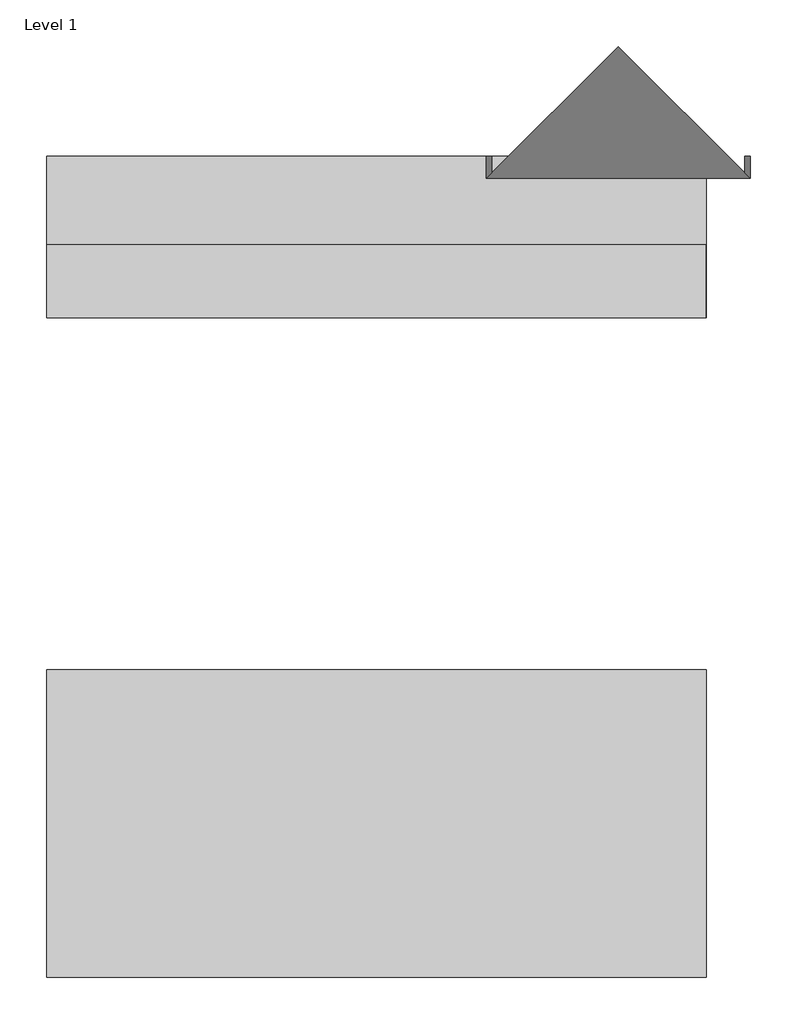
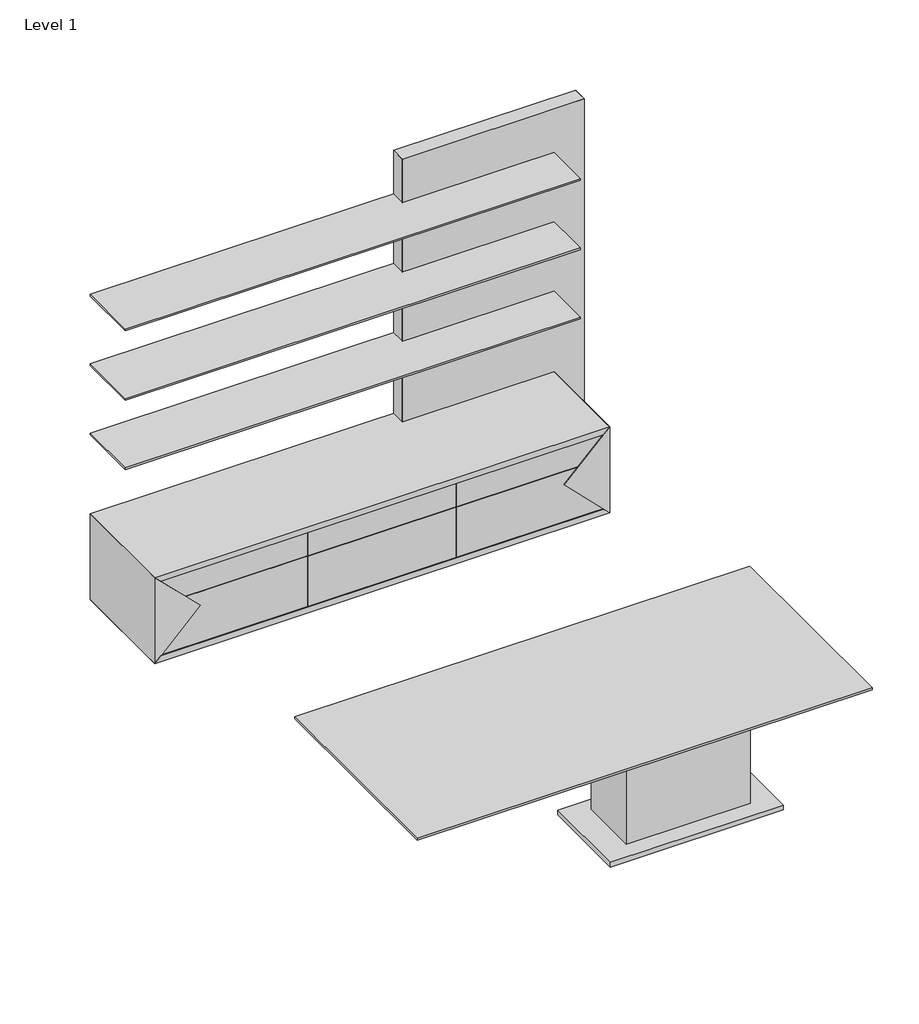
# One storey: 2 proxies.
"""IFC4 building model written with IfcOpenShell, lengths in millimetres."""

from ifc_helpers import new_model, si_unit, origin, place, context, project, spatial, transform, mapped, element, save
from components import generic_models_a7e872ad, generic_models_f065094a

model = new_model("IFC4")

# Units and contexts
model_context = context("Model", 3, world=origin())
ifc_project = project(units=[si_unit("LENGTHUNIT", "METRE", prefix="MILLI")], contexts=[model_context])

# Site, building, storey
site = spatial("IfcSite", under=ifc_project)
building = spatial("IfcBuilding", under=site)
storey = spatial("IfcBuildingStorey", under=building, Name="Level 1", Elevation=0.0)

# Proxies
placement = place(None, origin())
generic_models_shape = generic_models_a7e872ad(model_context)
element("IfcBuildingElementProxy", 1, Name="AERO^OFFICE 6_WALL HUNG", ObjectType="AERO^OFFICE 6_WALL HUNG", at=placement, inside=storey, context=model_context, shape_type="MappedRepresentation", body=[
    mapped(generic_models_shape, transform((1524.0, 1778.0, -1.5875), x_axis=(1.0, 0.0, 0.0), y_axis=(0.0, 0.0, 1.0), z_axis=(0.0, -1.0, 0.0))),
])
generic_models_2_shape = generic_models_f065094a(model_context)
element("IfcBuildingElementProxy", 2, Name="AERO^OFFICE 6_DL2 DESK-SOLID ASSEMBLY", ObjectType="AERO^OFFICE 6_DL2 DESK-SOLID ASSEMBLY", at=placement, inside=storey, context=model_context, shape_type="MappedRepresentation", body=[
    mapped(generic_models_2_shape, transform((1892.3, -685.8, 0.0), x_axis=(-1.0, 0.0, 0.0), y_axis=(0.0, 0.0, 1.0), z_axis=(0.0, 1.0, 0.0))),
])

save(model, "model.ifc")
